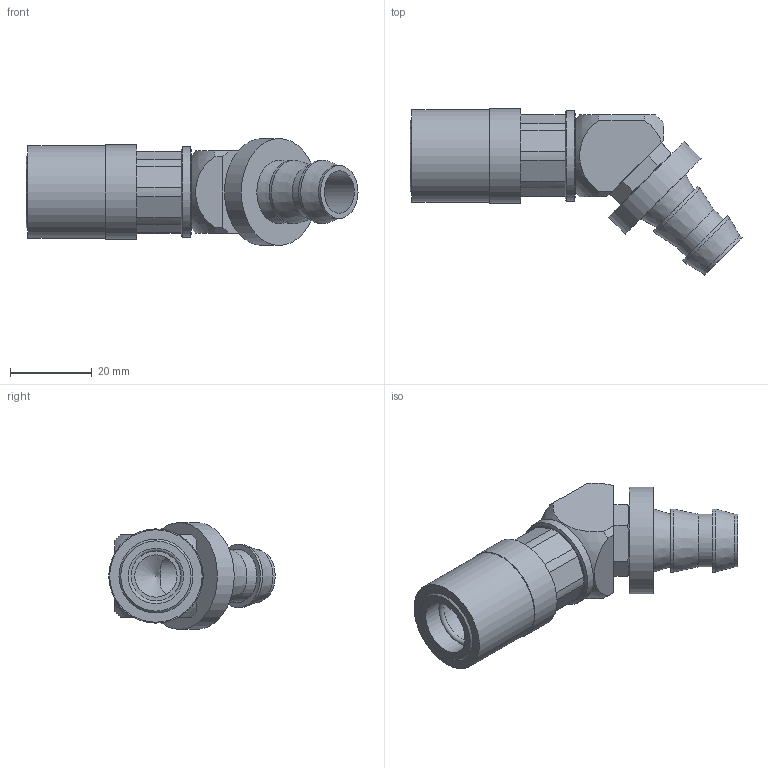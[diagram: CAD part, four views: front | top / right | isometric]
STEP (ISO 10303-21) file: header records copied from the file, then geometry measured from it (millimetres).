
FILE_DESCRIPTION(/* description */ ('STEP AP214'),/* implementation_level */ '2;1');
FILE_NAME(/* name */ 'JSL0328',/* time_stamp */ '2024-12-19T09:06:05+01:00',/* author */ ('License CC BY-ND 4.0'),/* organization */ ('CADENAS'),/* preprocessor_version */ 'ST-DEVELOPER v19.3',/* originating_system */ 'PARTsolutions',/* authorisation */ ' ');
FILE_SCHEMA (('AUTOMOTIVE_DESIGN {1 0 10303 214 3 1 1}'));
Length unit declared in the file: inch
Products named in the file (1): JSL0328
Bounding box: 81.22 x 40.71 x 26.16 mm (x, y, z)
Volume: 20356 mm3; surface area: 10551.8 mm2
Topology: 1 solids, 1 shells, 90 faces, 226 edges, 148 vertices
Faces by surface type: plane 58, cylinder 15, cone 13, sphere 3, torus 1
Full cylindrical faces by diameter (mm): 10.363 x2, 12.954 x3, 13.564 x2, 15.494 x2, 17.831 x1, 20.066 x1, 22.073 x1, 22.606 x1, 23.058 x1, 26.162 x1
Entity records: 2609 total; most frequent: CARTESIAN_POINT 534, DIRECTION 437, ORIENTED_EDGE 388, EDGE_CURVE 194, AXIS2_PLACEMENT_3D 186, VERTEX_POINT 141, FACE_BOUND 127, EDGE_LOOP 126
